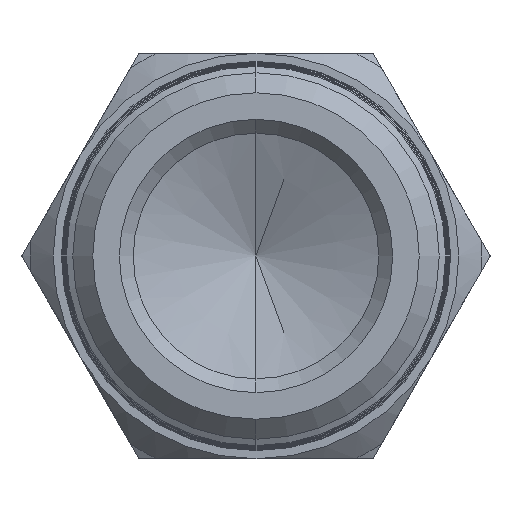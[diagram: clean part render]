
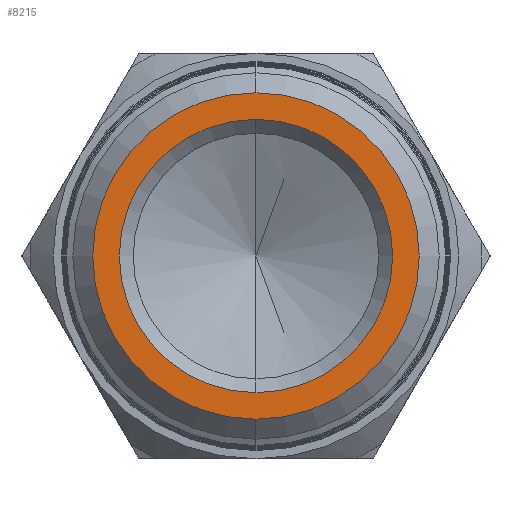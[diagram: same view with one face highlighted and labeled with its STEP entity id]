
A CAD part, left-side view. The second image highlights one B-rep face of the part: STEP entity #8215.
In plain terms, the highlighted planar face has unit normal (-1, 0, 0).
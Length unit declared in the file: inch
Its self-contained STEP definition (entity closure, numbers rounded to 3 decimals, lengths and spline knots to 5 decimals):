
#59 = ORIENTED_EDGE ( 'NONE', *, *, #2226, .T. ) ;
#285 = CARTESIAN_POINT ( 'NONE',  ( 0., 0., -0.295 ) ) ;
#655 = CIRCLE ( 'NONE', #14840, 0.295 ) ;
#796 = AXIS2_PLACEMENT_3D ( 'NONE', #1433, #6559, #15492 ) ;
#1354 = ORIENTED_EDGE ( 'NONE', *, *, #6704, .T. ) ;
#1433 = CARTESIAN_POINT ( 'NONE',  ( 0., 0., 0. ) ) ;
#1573 = DIRECTION ( 'NONE',  ( 0., 0., -1. ) ) ;
#1694 = CARTESIAN_POINT ( 'NONE',  ( 0., 0., 0. ) ) ;
#2226 = EDGE_CURVE ( 'NONE', #8733, #9021, #655, .T. ) ;
#2427 = CARTESIAN_POINT ( 'NONE',  ( 0., 0., 0. ) ) ;
#3112 = FACE_BOUND ( 'NONE', #5736, .T. ) ;
#3364 = DIRECTION ( 'NONE',  ( 1., 0., 0. ) ) ;
#3420 = CIRCLE ( 'NONE', #15679, 0.295 ) ;
#3877 = VERTEX_POINT ( 'NONE', #11905 ) ;
#4308 = DIRECTION ( 'NONE',  ( 0., 0., 1. ) ) ;
#5736 = EDGE_LOOP ( 'NONE', ( #59, #10900 ) ) ;
#5960 = PLANE ( 'NONE',  #8586 ) ;
#6277 = DIRECTION ( 'NONE',  ( 1., 0., 0. ) ) ;
#6559 = DIRECTION ( 'NONE',  ( -1., 0., 0. ) ) ;
#6704 = EDGE_CURVE ( 'NONE', #8998, #3877, #12562, .T. ) ;
#6776 = DIRECTION ( 'NONE',  ( 1., 0., 0. ) ) ;
#6875 = CARTESIAN_POINT ( 'NONE',  ( 0., 0., 0. ) ) ;
#6961 = FACE_OUTER_BOUND ( 'NONE', #10272, .T. ) ;
#7131 = DIRECTION ( 'NONE',  ( 0., 0., -1. ) ) ;
#7137 = EDGE_CURVE ( 'NONE', #3877, #8998, #13354, .T. ) ;
#8215 = ADVANCED_FACE ( 'NONE', ( #3112, #6961 ), #5960, .F. ) ;
#8586 = AXIS2_PLACEMENT_3D ( 'NONE', #6875, #3364, #7131 ) ;
#8733 = VERTEX_POINT ( 'NONE', #14582 ) ;
#8998 = VERTEX_POINT ( 'NONE', #15526 ) ;
#9021 = VERTEX_POINT ( 'NONE', #285 ) ;
#10272 = EDGE_LOOP ( 'NONE', ( #12877, #1354 ) ) ;
#10900 = ORIENTED_EDGE ( 'NONE', *, *, #15819, .T. ) ;
#11353 = DIRECTION ( 'NONE',  ( 0., 0., -1. ) ) ;
#11905 = CARTESIAN_POINT ( 'NONE',  ( 0., 0., -0.35226 ) ) ;
#12285 = AXIS2_PLACEMENT_3D ( 'NONE', #1694, #14260, #4308 ) ;
#12562 = CIRCLE ( 'NONE', #12285, 0.35226 ) ;
#12877 = ORIENTED_EDGE ( 'NONE', *, *, #7137, .T. ) ;
#13354 = CIRCLE ( 'NONE', #796, 0.35226 ) ;
#14260 = DIRECTION ( 'NONE',  ( -1., 0., 0. ) ) ;
#14582 = CARTESIAN_POINT ( 'NONE',  ( 0., 0., 0.295 ) ) ;
#14840 = AXIS2_PLACEMENT_3D ( 'NONE', #2427, #6277, #11353 ) ;
#15492 = DIRECTION ( 'NONE',  ( 0., 0., 1. ) ) ;
#15526 = CARTESIAN_POINT ( 'NONE',  ( 0., 0., 0.35226 ) ) ;
#15547 = CARTESIAN_POINT ( 'NONE',  ( 0., 0., 0. ) ) ;
#15679 = AXIS2_PLACEMENT_3D ( 'NONE', #15547, #6776, #1573 ) ;
#15819 = EDGE_CURVE ( 'NONE', #9021, #8733, #3420, .T. ) ;
